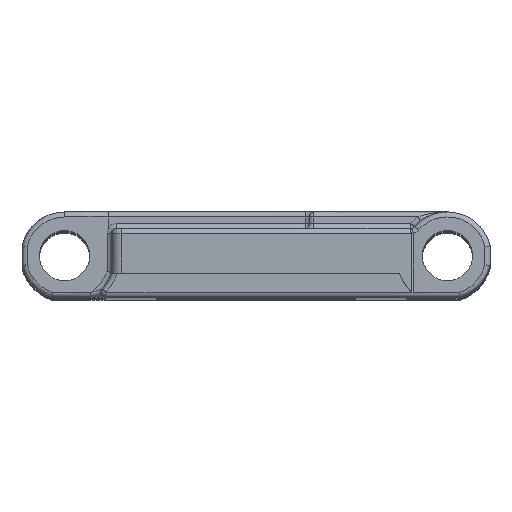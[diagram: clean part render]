
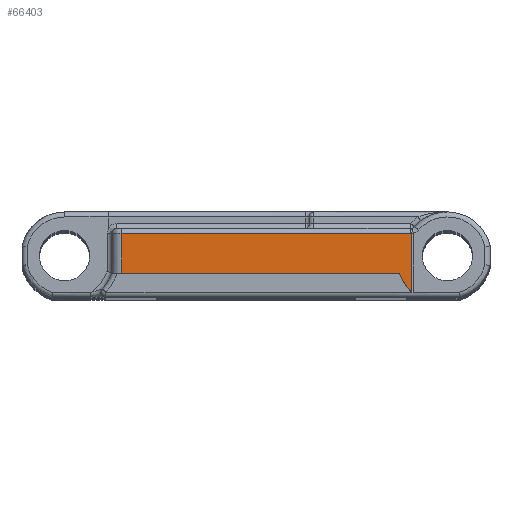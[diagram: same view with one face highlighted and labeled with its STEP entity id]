
A CAD part, top view. The second image highlights one B-rep face of the part: STEP entity #66403.
In plain terms, the highlighted planar face has unit normal (0, 0, 1).
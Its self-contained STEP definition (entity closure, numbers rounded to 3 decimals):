
#1435=DIRECTION('',(1.,0.,0.));
#1436=VECTOR('',#1435,27.636);
#1437=CARTESIAN_POINT('',(-13.366,-1.763,76.15));
#1438=LINE('',#1437,#1436);
#12142=DIRECTION('',(-1.,0.,0.));
#12143=VECTOR('',#12142,28.772);
#12144=CARTESIAN_POINT('',(15.406,2.2,76.15));
#12145=LINE('',#12144,#12143);
#12146=CARTESIAN_POINT('',(15.406,3.2,76.15));
#12147=DIRECTION('',(0.,0.,-1.));
#12148=DIRECTION('',(0.034,-0.999,0.));
#12149=AXIS2_PLACEMENT_3D('',#12146,#12147,#12148);
#12151=DIRECTION('',(0.,-1.,0.));
#12152=VECTOR('',#12151,5.8);
#12153=CARTESIAN_POINT('',(15.44,2.201,76.15));
#12154=LINE('',#12153,#12152);
#12155=CARTESIAN_POINT('',(19.067,0.,76.15));
#12156=DIRECTION('',(0.,0.,1.));
#12157=DIRECTION('',(-0.939,-0.345,0.));
#12158=AXIS2_PLACEMENT_3D('',#12155,#12156,#12157);
#12160=DIRECTION('',(0.,1.,0.));
#12161=VECTOR('',#12160,3.963);
#12162=CARTESIAN_POINT('',(-13.366,-1.763,76.15));
#12163=LINE('',#12162,#12161);
#51231=CARTESIAN_POINT('',(-13.366,-1.763,76.15));
#51232=CARTESIAN_POINT('',(14.271,-1.763,76.15));
#51233=VERTEX_POINT('',#51231);
#51234=VERTEX_POINT('',#51232);
#51237=CARTESIAN_POINT('',(15.44,-3.6,76.15));
#51238=VERTEX_POINT('',#51237);
#52589=CARTESIAN_POINT('',(-13.366,2.2,76.15));
#52591=VERTEX_POINT('',#52589);
#52597=CARTESIAN_POINT('',(15.406,2.2,76.15));
#52598=VERTEX_POINT('',#52597);
#52601=CARTESIAN_POINT('',(15.44,2.201,76.15));
#52602=VERTEX_POINT('',#52601);
#66387=CARTESIAN_POINT('',(-13.366,-1.763,76.15));
#66388=DIRECTION('',(0.,0.,1.));
#66389=DIRECTION('',(1.,0.,0.));
#66390=AXIS2_PLACEMENT_3D('',#66387,#66388,#66389);
#66391=PLANE('',#66390);
#66393=ORIENTED_EDGE('',*,*,#66392,.F.);
#66395=ORIENTED_EDGE('',*,*,#66394,.F.);
#66396=ORIENTED_EDGE('',*,*,#57211,.T.);
#66398=ORIENTED_EDGE('',*,*,#66397,.F.);
#66399=ORIENTED_EDGE('',*,*,#57131,.F.);
#66400=ORIENTED_EDGE('',*,*,#66379,.T.);
#66401=EDGE_LOOP('',(#66393,#66395,#66396,#66398,#66399,#66400));
#66402=FACE_OUTER_BOUND('',#66401,.F.);
#12150=CIRCLE('',#12149,1.);
#12159=CIRCLE('',#12158,5.11);
#57131=EDGE_CURVE('',#51233,#51234,#1438,.T.);
#57211=EDGE_CURVE('',#52602,#51238,#12154,.T.);
#66379=EDGE_CURVE('',#51233,#52591,#12163,.T.);
#66392=EDGE_CURVE('',#52598,#52591,#12145,.T.);
#66394=EDGE_CURVE('',#52602,#52598,#12150,.T.);
#66397=EDGE_CURVE('',#51234,#51238,#12159,.T.);
#66403=ADVANCED_FACE('',(#66402),#66391,.T.);
